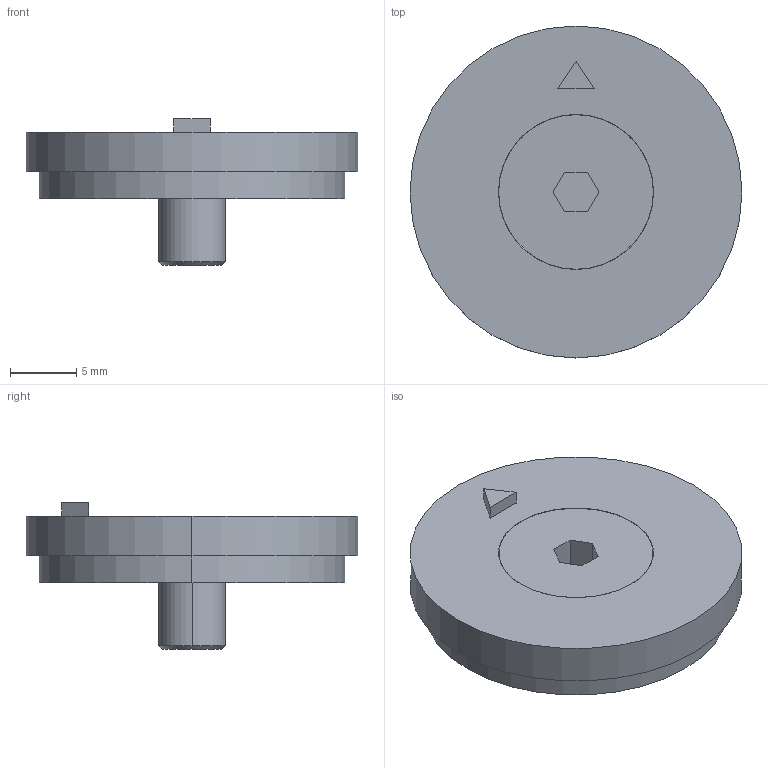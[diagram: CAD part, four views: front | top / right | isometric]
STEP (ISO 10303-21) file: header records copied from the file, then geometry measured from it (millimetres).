
FILE_DESCRIPTION (( 'STEP AP203' ), '1' );
FILE_NAME ('DLSRP40-AO.step', '2020-08-21T08:01:57', ( 'Microsoft Corporation' ), ( 'MS' ), 'SwSTEP 2.0', 'SolidWorks 2018', '' );
FILE_SCHEMA (( 'CONFIG_CONTROL_DESIGN' ));
Length unit declared in the file: inch
Products named in the file (1): DLSRP40-AO
Bounding box: 25 x 25 x 11.02 mm (x, y, z)
Volume: 2382.9 mm3; surface area: 1769.9 mm2
Topology: 2 solids, 2 shells, 30 faces, 63 edges, 40 vertices
Faces by surface type: plane 16, cylinder 8, cone 6
Entity records: 882 total; most frequent: DIRECTION 147, CARTESIAN_POINT 134, ORIENTED_EDGE 126, EDGE_CURVE 63, AXIS2_PLACEMENT_3D 53, VECTOR 41, LINE 41, VERTEX_POINT 40
